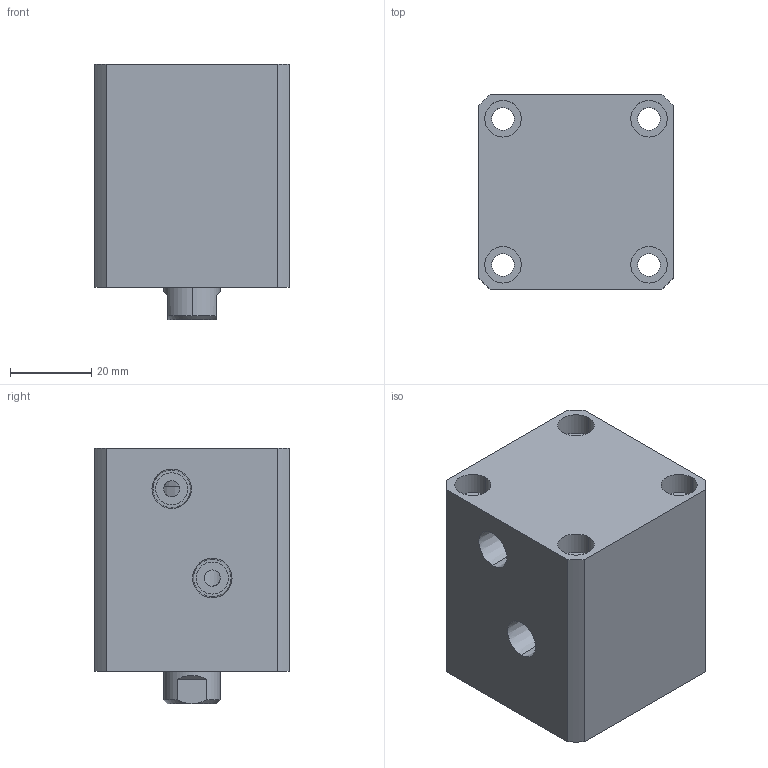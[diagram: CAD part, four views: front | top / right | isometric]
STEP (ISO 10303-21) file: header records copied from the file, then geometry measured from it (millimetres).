
FILE_DESCRIPTION (( 'STEP AP214' ), '1' );
FILE_NAME ('chtb-sd25x10n_asm.STEP', '2018-05-22T11:04:44', ( 'Windows' ), ( 'Microsoft' ), 'SwSTEP 2.0', 'SolidWorks 2015', '' );
FILE_SCHEMA (( 'AUTOMOTIVE_DESIGN' ));
Length unit declared in the file: millimetre
Products named in the file (4): chtb-sd25x10n_asm; CHTB-SD25X10NHSG; CHTB-SD25X10NBT; CHTB-25QG
Assembly tree (3 placements, depth 2):
  chtb-sd25x10n_asm
    CHTB-25QG
    CHTB-SD25X10NBT
    CHTB-SD25X10NHSG
Bounding box: 48 x 48 x 63 mm (x, y, z)
Volume: 112820.6 mm3; surface area: 33535.6 mm2
Topology: 3 solids, 3 shells, 144 faces, 377 edges, 257 vertices
Faces by surface type: cylinder 85, plane 36, cone 13, bspline 10
Entity records: 7940 total; most frequent: CARTESIAN_POINT 4299, ORIENTED_EDGE 742, DIRECTION 671, EDGE_CURVE 371, AXIS2_PLACEMENT_3D 278, VERTEX_POINT 257, EDGE_LOOP 182, FACE_OUTER_BOUND 144
